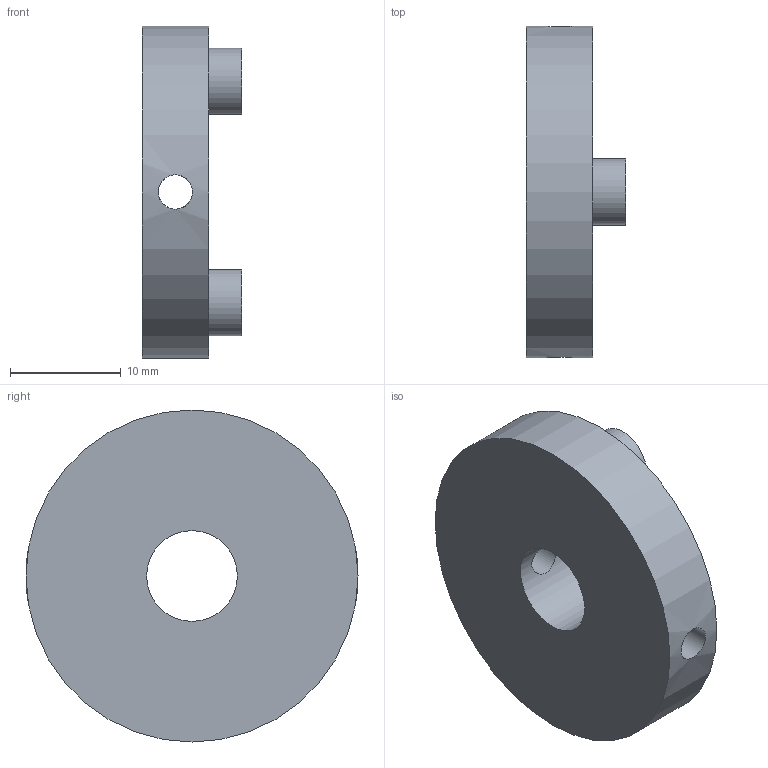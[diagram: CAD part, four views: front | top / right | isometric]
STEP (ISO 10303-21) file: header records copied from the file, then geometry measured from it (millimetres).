
FILE_DESCRIPTION(('Open CASCADE Model'),'2;1');
FILE_NAME('Open CASCADE Shape Model','2026-11-02T23:22:40',('Author'),( 'Open CASCADE'),'Open CASCADE STEP processor 7.9','Open CASCADE 7.9' ,'Unknown');
FILE_SCHEMA(('AUTOMOTIVE_DESIGN { 1 0 10303 214 1 1 1 1 }'));
Length unit declared in the file: millimetre
Products named in the file (1): Open CASCADE STEP translator 7.9 13
Bounding box: 9 x 30 x 30 mm (x, y, z)
Volume: 3928.6 mm3; surface area: 2325.2 mm2
Topology: 1 solids, 1 shells, 10 faces, 24 edges, 16 vertices
Faces by surface type: cylinder 6, plane 4
Full cylindrical faces by diameter (mm): 3.1 x2, 6 x2, 8.2 x1, 30 x1
Entity records: 1554 total; most frequent: CARTESIAN_POINT 1083, DIRECTION 74, ORIENTED_EDGE 48, PCURVE 48, DEFINITIONAL_REPRESENTATION 48, LINE 32, VECTOR 32, EDGE_CURVE 24
